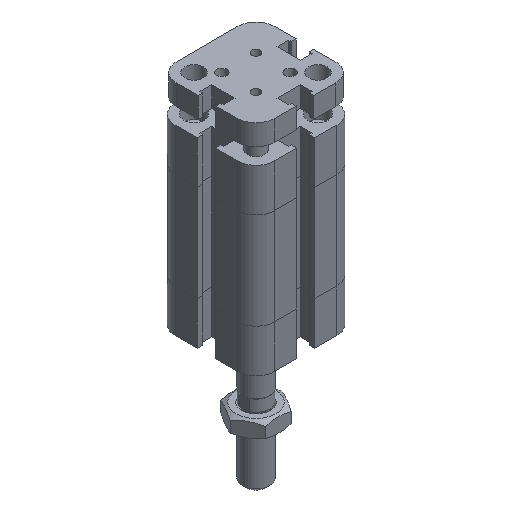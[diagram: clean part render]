
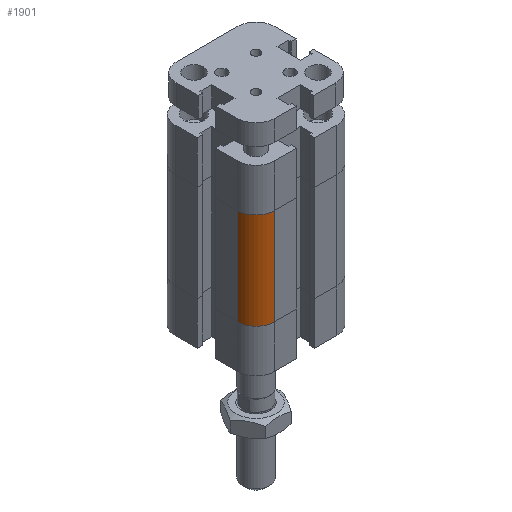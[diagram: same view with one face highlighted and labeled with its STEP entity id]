
A CAD part, isometric view. The second image highlights one B-rep face of the part: STEP entity #1901.
In plain terms, the highlighted cylindrical face has radius 5.5 mm (diameter 11 mm), a partial arc.
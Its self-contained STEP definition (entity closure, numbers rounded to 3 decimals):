
#1812=CARTESIAN_POINT('',(-14.5,-9.,12.5));
#1813=VERTEX_POINT('',#1812);
#1820=CARTESIAN_POINT('',(-14.5,-9.,40.5));
#1821=VERTEX_POINT('',#1820);
#1822=CARTESIAN_POINT('',(-14.5,-9.,12.5));
#1823=DIRECTION('',(0.0,0.0,1.0));
#1824=VECTOR('',#1823,28.);
#1825=LINE('',#1822,#1824);
#1826=EDGE_CURVE('',#1813,#1821,#1825,.T.);
#1869=CARTESIAN_POINT('',(-9.,-9.,0.0));
#1870=DIRECTION('',(0.0,0.0,1.0));
#1871=DIRECTION('',(1.0,0.0,0.0));
#1872=AXIS2_PLACEMENT_3D('',#1869,#1870,#1871);
#1873=CYLINDRICAL_SURFACE('',#1872,5.5);
#1874=CARTESIAN_POINT('',(-9.,-14.5,12.5));
#1875=VERTEX_POINT('',#1874);
#1876=CARTESIAN_POINT('',(-9.,-9.,12.5));
#1877=DIRECTION('',(0.0,0.0,1.0));
#1878=DIRECTION('',(1.0,0.0,0.0));
#1879=AXIS2_PLACEMENT_3D('',#1876,#1877,#1878);
#1880=CIRCLE('',#1879,5.5);
#1881=EDGE_CURVE('',#1813,#1875,#1880,.T.);
#1882=ORIENTED_EDGE('',*,*,#1881,.T.);
#1883=CARTESIAN_POINT('',(-9.,-14.5,40.5));
#1884=VERTEX_POINT('',#1883);
#1885=CARTESIAN_POINT('',(-9.,-14.5,12.5));
#1886=DIRECTION('',(0.0,0.0,1.0));
#1887=VECTOR('',#1886,28.);
#1888=LINE('',#1885,#1887);
#1889=EDGE_CURVE('',#1875,#1884,#1888,.T.);
#1890=ORIENTED_EDGE('',*,*,#1889,.T.);
#1891=CARTESIAN_POINT('',(-9.,-9.,40.5));
#1892=DIRECTION('',(0.0,0.0,1.0));
#1893=DIRECTION('',(1.0,0.0,0.0));
#1894=AXIS2_PLACEMENT_3D('',#1891,#1892,#1893);
#1895=CIRCLE('',#1894,5.5);
#1896=EDGE_CURVE('',#1821,#1884,#1895,.T.);
#1897=ORIENTED_EDGE('',*,*,#1896,.F.);
#1898=ORIENTED_EDGE('',*,*,#1826,.F.);
#1899=EDGE_LOOP('',(#1882,#1890,#1897,#1898));
#1900=FACE_OUTER_BOUND('',#1899,.T.);
#1901=ADVANCED_FACE('',(#1900),#1873,.T.);
